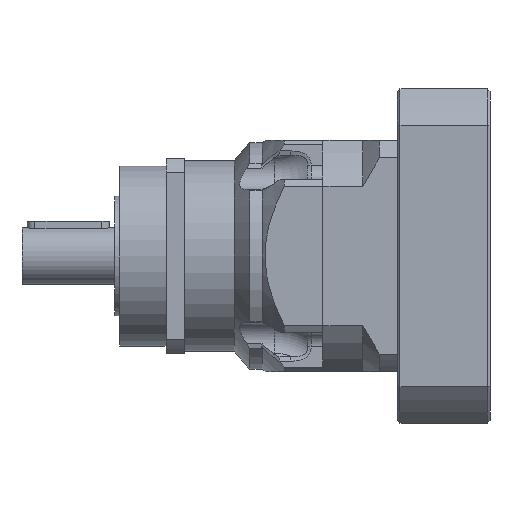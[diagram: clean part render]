
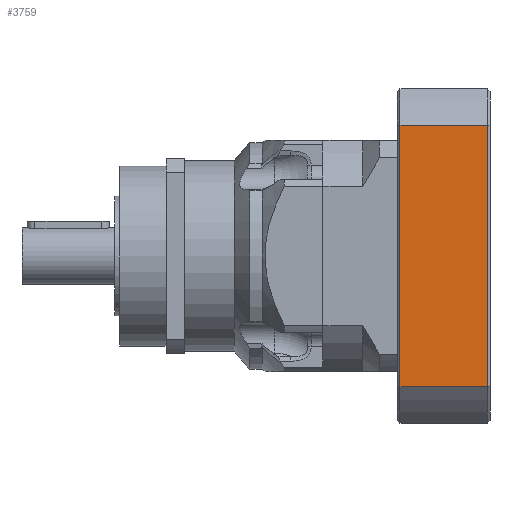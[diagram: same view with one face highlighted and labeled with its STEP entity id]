
A CAD part, front view. The second image highlights one B-rep face of the part: STEP entity #3759.
In plain terms, the highlighted planar face has unit normal (0, -1, 0) as drawn and (-1, 0, 0) by its records, which use the part's own axes.
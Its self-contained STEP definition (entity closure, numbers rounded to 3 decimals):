
#3635 = VERTEX_POINT ( 'NONE', #12317 ) ;
#3644 = VERTEX_POINT ( 'NONE', #12412 ) ;
#3646 = ORIENTED_EDGE ( 'NONE', *, *, #3762, .F. ) ;
#3647 = ORIENTED_EDGE ( 'NONE', *, *, #3772, .T. ) ;
#3648 = EDGE_LOOP ( 'NONE', ( #3646, #3760, #3764, #3647 ) ) ;
#3758 = VERTEX_POINT ( 'NONE', #12523 ) ;
#3759 = ADVANCED_FACE ( 'NONE', ( #12602 ), #12524, .F. ) ;
#3760 = ORIENTED_EDGE ( 'NONE', *, *, #3761, .T. ) ;
#3761 = EDGE_CURVE ( 'NONE', #3635, #3758, #12596, .T. ) ;
#3762 = EDGE_CURVE ( 'NONE', #3635, #3644, #12671, .T. ) ;
#3764 = ORIENTED_EDGE ( 'NONE', *, *, #3765, .F. ) ;
#3765 = EDGE_CURVE ( 'NONE', #3766, #3758, #12598, .T. ) ;
#3766 = VERTEX_POINT ( 'NONE', #12667 ) ;
#3772 = EDGE_CURVE ( 'NONE', #3766, #3644, #12673, .T. ) ;
#12317 = CARTESIAN_POINT ( 'NONE',  ( -65., 35., 50.806 ) ) ;
#12412 = CARTESIAN_POINT ( 'NONE',  ( -65., 1., 50.806 ) ) ;
#12517 = CARTESIAN_POINT ( 'NONE',  ( -65., 51., -65. ) ) ;
#12523 = CARTESIAN_POINT ( 'NONE',  ( -65., 35., -50.806 ) ) ;
#12524 = PLANE ( 'NONE',  #12549 ) ;
#12549 = AXIS2_PLACEMENT_3D ( 'NONE', #12517, #12594, #12593 ) ;
#12593 = DIRECTION ( 'NONE',  ( 0., 0., -1. ) ) ;
#12594 = DIRECTION ( 'NONE',  ( 1., 0., 0. ) ) ;
#12595 = CARTESIAN_POINT ( 'NONE',  ( -65., 35., -50.806 ) ) ;
#12596 = LINE ( 'NONE', #12595, #12675 ) ;
#12597 = CARTESIAN_POINT ( 'NONE',  ( -65., 44.944, -50.806 ) ) ;
#12598 = LINE ( 'NONE', #12597, #12664 ) ;
#12602 = FACE_OUTER_BOUND ( 'NONE', #3648, .T. ) ;
#12657 = DIRECTION ( 'NONE',  ( 0., 0., 1. ) ) ;
#12658 = VECTOR ( 'NONE', #12657, 1000. ) ;
#12663 = DIRECTION ( 'NONE',  ( 0., 1., 0. ) ) ;
#12664 = VECTOR ( 'NONE', #12663, 1000. ) ;
#12667 = CARTESIAN_POINT ( 'NONE',  ( -65., 1., -50.806 ) ) ;
#12668 = DIRECTION ( 'NONE',  ( 0., -1., 0. ) ) ;
#12669 = VECTOR ( 'NONE', #12668, 1000. ) ;
#12670 = CARTESIAN_POINT ( 'NONE',  ( -65., 44.944, 50.806 ) ) ;
#12671 = LINE ( 'NONE', #12670, #12669 ) ;
#12672 = CARTESIAN_POINT ( 'NONE',  ( -65., 1., 50.806 ) ) ;
#12673 = LINE ( 'NONE', #12672, #12658 ) ;
#12674 = DIRECTION ( 'NONE',  ( 0., 0., -1. ) ) ;
#12675 = VECTOR ( 'NONE', #12674, 1000. ) ;
